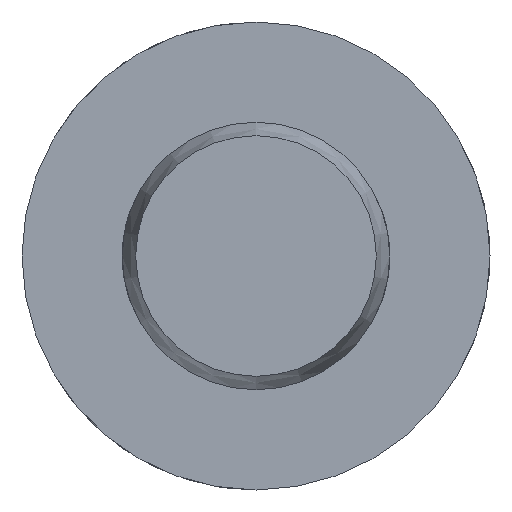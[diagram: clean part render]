
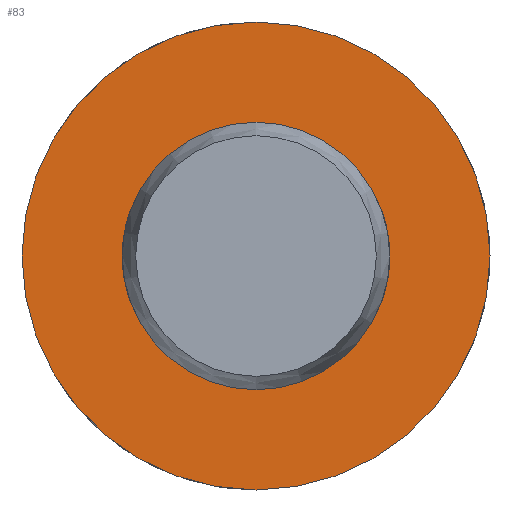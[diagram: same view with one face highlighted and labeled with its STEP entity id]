
A CAD part, left-side view. The second image highlights one B-rep face of the part: STEP entity #83.
In plain terms, the highlighted planar face has unit normal (-1, 0, 0).
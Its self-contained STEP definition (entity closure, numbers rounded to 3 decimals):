
#83 = ADVANCED_FACE( '', ( #128, #129 ), #130, .F. );
#128 = FACE_OUTER_BOUND( '', #204, .T. );
#129 = FACE_BOUND( '', #205, .T. );
#130 = PLANE( '', #206 );
#204 = EDGE_LOOP( '', ( #318 ) );
#205 = EDGE_LOOP( '', ( #319 ) );
#206 = AXIS2_PLACEMENT_3D( '', #320, #321, #322 );
#318 = ORIENTED_EDGE( '', *, *, #481, .F. );
#319 = ORIENTED_EDGE( '', *, *, #471, .T. );
#320 = CARTESIAN_POINT( '', ( 18.2, 4., 0. ) );
#321 = DIRECTION( '', ( 1., 0., 0. ) );
#322 = DIRECTION( '', ( 0., 0., -1. ) );
#471 = EDGE_CURVE( '', #541, #541, #542, .T. );
#481 = EDGE_CURVE( '', #559, #559, #560, .T. );
#541 = VERTEX_POINT( '', #726 );
#542 = CIRCLE( '', #727, 4. );
#559 = VERTEX_POINT( '', #861 );
#560 = CIRCLE( '', #862, 7. );
#726 = CARTESIAN_POINT( '', ( 18.2, 0., -4. ) );
#727 = AXIS2_PLACEMENT_3D( '', #923, #924, #925 );
#861 = CARTESIAN_POINT( '', ( 18.2, 0., -7. ) );
#862 = AXIS2_PLACEMENT_3D( '', #944, #945, #946 );
#923 = CARTESIAN_POINT( '', ( 18.2, 0., 0. ) );
#924 = DIRECTION( '', ( 1., 0., 0. ) );
#925 = DIRECTION( '', ( 0., 0., -1. ) );
#944 = CARTESIAN_POINT( '', ( 18.2, 0., 0. ) );
#945 = DIRECTION( '', ( 1., 0., 0. ) );
#946 = DIRECTION( '', ( 0., 0., -1. ) );
